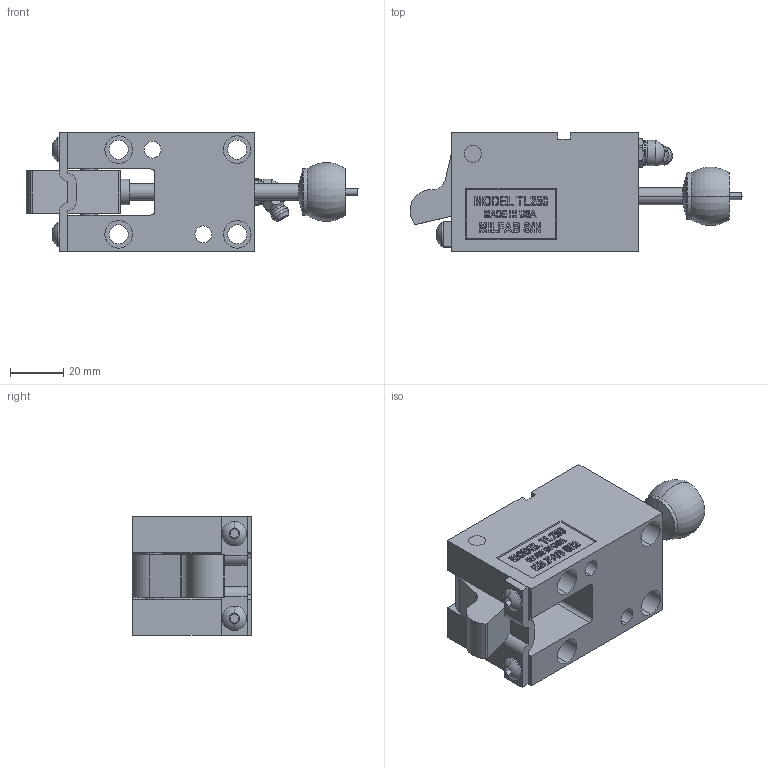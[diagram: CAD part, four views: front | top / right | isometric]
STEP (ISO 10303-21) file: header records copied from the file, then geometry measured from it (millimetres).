
FILE_DESCRIPTION (( 'STEP AP214' ), '1' );
FILE_NAME ('TL25045-C.STEP', '2014-01-05T22:10:53', ( 'user' ), ( '' ), 'SwSTEP 2.0', 'SolidWorks 2009', '' );
FILE_SCHEMA (( 'AUTOMOTIVE_DESIGN' ));
Length unit declared in the file: inch
Products named in the file (11): TL250-BODY; I-250-POINT; 10-SCREW; 250-I-STRAP; TL25045-C; 250-OFFSET TRIGGER; 250-WASHER; 250 PIVOT PIN; L250-PUNCH; GREASE ZERK; 250 STRIPPER CLOSED
Assembly tree (11 placements, depth 2):
  TL25045-C
    10-SCREW  x2
    250 STRIPPER CLOSED
    250 PIVOT PIN
    TL250-BODY
    250-OFFSET TRIGGER
    250-WASHER
    I-250-POINT
    GREASE ZERK
    250-I-STRAP
    L250-PUNCH
Bounding box: 124.4 x 44.45 x 44.45 mm (x, y, z)
Volume: 116334.8 mm3; surface area: 37160.4 mm2
Topology: 11 solids, 11 shells, 581 faces, 1492 edges, 978 vertices
Faces by surface type: plane 340, cylinder 98, bspline 87, cone 30, torus 26
Entity records: 22677 total; most frequent: CARTESIAN_POINT 8975, ORIENTED_EDGE 2900, DIRECTION 2402, EDGE_CURVE 1450, LINE 958, VECTOR 958, VERTEX_POINT 954, AXIS2_PLACEMENT_3D 722
